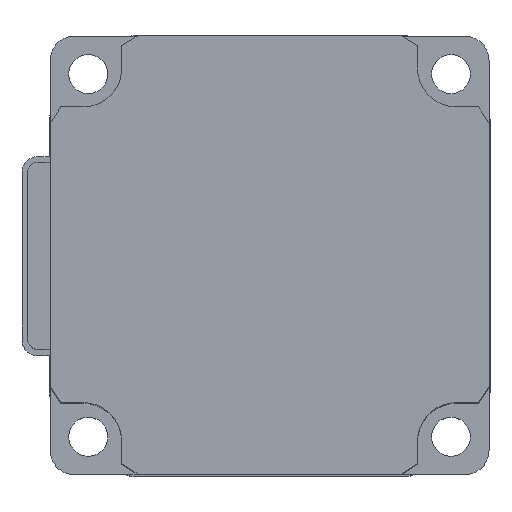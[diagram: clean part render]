
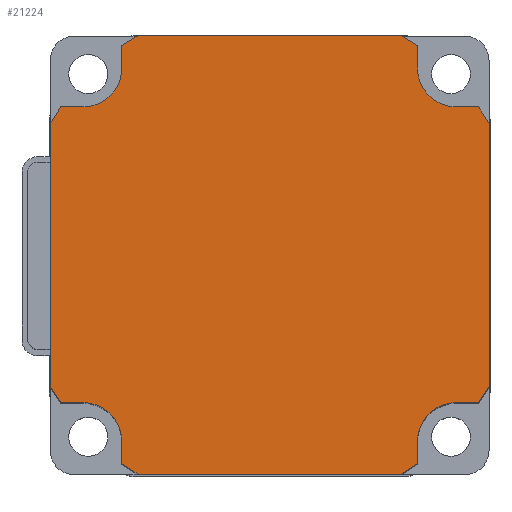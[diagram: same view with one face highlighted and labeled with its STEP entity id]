
A CAD part, top view. The second image highlights one B-rep face of the part: STEP entity #21224.
In plain terms, the highlighted planar face has unit normal (0, 0, 1).
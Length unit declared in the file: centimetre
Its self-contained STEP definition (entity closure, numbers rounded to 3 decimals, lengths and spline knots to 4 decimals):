
#6477=VERTEX_POINT('',#48513);
#6478=VERTEX_POINT('',#48514);
#6481=VERTEX_POINT('',#48522);
#6483=VERTEX_POINT('',#48528);
#6484=VERTEX_POINT('',#48529);
#6487=VERTEX_POINT('',#48537);
#6489=VERTEX_POINT('',#48543);
#6491=VERTEX_POINT('',#48549);
#6493=VERTEX_POINT('',#48555);
#6495=VERTEX_POINT('',#48561);
#6496=VERTEX_POINT('',#48562);
#6499=VERTEX_POINT('',#48570);
#6501=VERTEX_POINT('',#48576);
#6503=VERTEX_POINT('',#48582);
#6505=VERTEX_POINT('',#48588);
#6507=VERTEX_POINT('',#48594);
#6508=VERTEX_POINT('',#48595);
#6511=VERTEX_POINT('',#48603);
#6513=VERTEX_POINT('',#48609);
#6515=VERTEX_POINT('',#48615);
#6517=VERTEX_POINT('',#48621);
#6519=VERTEX_POINT('',#48627);
#6520=VERTEX_POINT('',#48628);
#6523=VERTEX_POINT('',#48636);
#8660=EDGE_CURVE('',#6477,#6478,#24983,.T.);
#8664=EDGE_CURVE('',#6478,#6481,#24987,.T.);
#8667=EDGE_CURVE('',#6483,#6484,#24990,.T.);
#8671=EDGE_CURVE('',#6484,#6487,#24994,.T.);
#8674=EDGE_CURVE('',#6487,#6489,#27755,.T.);
#8677=EDGE_CURVE('',#6489,#6491,#24998,.T.);
#8680=EDGE_CURVE('',#6491,#6493,#25001,.T.);
#8683=EDGE_CURVE('',#6495,#6496,#25004,.T.);
#8687=EDGE_CURVE('',#6496,#6499,#25008,.T.);
#8690=EDGE_CURVE('',#6499,#6501,#27757,.T.);
#8693=EDGE_CURVE('',#6501,#6503,#25012,.T.);
#8696=EDGE_CURVE('',#6503,#6505,#25015,.T.);
#8699=EDGE_CURVE('',#6507,#6508,#25018,.T.);
#8703=EDGE_CURVE('',#6508,#6511,#25022,.T.);
#8706=EDGE_CURVE('',#6511,#6513,#27759,.T.);
#8709=EDGE_CURVE('',#6513,#6515,#25026,.T.);
#8712=EDGE_CURVE('',#6515,#6517,#25029,.T.);
#8715=EDGE_CURVE('',#6519,#6520,#25032,.T.);
#8719=EDGE_CURVE('',#6520,#6523,#25036,.T.);
#8722=EDGE_CURVE('',#6523,#6477,#27761,.T.);
#8724=EDGE_CURVE('',#6517,#6519,#25039,.T.);
#8725=EDGE_CURVE('',#6505,#6507,#25040,.T.);
#8726=EDGE_CURVE('',#6493,#6495,#25041,.T.);
#8727=EDGE_CURVE('',#6481,#6483,#25042,.T.);
#12012=ORIENTED_EDGE('',*,*,#8660,.F.);
#12013=ORIENTED_EDGE('',*,*,#8722,.F.);
#12014=ORIENTED_EDGE('',*,*,#8719,.F.);
#12015=ORIENTED_EDGE('',*,*,#8715,.F.);
#12016=ORIENTED_EDGE('',*,*,#8724,.F.);
#12017=ORIENTED_EDGE('',*,*,#8712,.F.);
#12018=ORIENTED_EDGE('',*,*,#8709,.F.);
#12019=ORIENTED_EDGE('',*,*,#8706,.F.);
#12020=ORIENTED_EDGE('',*,*,#8703,.F.);
#12021=ORIENTED_EDGE('',*,*,#8699,.F.);
#12022=ORIENTED_EDGE('',*,*,#8725,.F.);
#12023=ORIENTED_EDGE('',*,*,#8696,.F.);
#12024=ORIENTED_EDGE('',*,*,#8693,.F.);
#12025=ORIENTED_EDGE('',*,*,#8690,.F.);
#12026=ORIENTED_EDGE('',*,*,#8687,.F.);
#12027=ORIENTED_EDGE('',*,*,#8683,.F.);
#12028=ORIENTED_EDGE('',*,*,#8726,.F.);
#12029=ORIENTED_EDGE('',*,*,#8680,.F.);
#12030=ORIENTED_EDGE('',*,*,#8677,.F.);
#12031=ORIENTED_EDGE('',*,*,#8674,.F.);
#12032=ORIENTED_EDGE('',*,*,#8671,.F.);
#12033=ORIENTED_EDGE('',*,*,#8667,.F.);
#12034=ORIENTED_EDGE('',*,*,#8727,.F.);
#12035=ORIENTED_EDGE('',*,*,#8664,.F.);
#18541=EDGE_LOOP('',(#12012,#12013,#12014,#12015,#12016,#12017,#12018,#12019,
#12020,#12021,#12022,#12023,#12024,#12025,#12026,#12027,#12028,#12029,#12030,
#12031,#12032,#12033,#12034,#12035));
#19883=FACE_BOUND('',#18541,.T.);
#21224=ADVANCED_FACE('',(#19883),#47112,.T.);
#24983=LINE('',#48512,#44364);
#24987=LINE('',#48521,#44368);
#24990=LINE('',#48527,#44371);
#24994=LINE('',#48536,#44375);
#24998=LINE('',#48548,#44379);
#25001=LINE('',#48554,#44382);
#25004=LINE('',#48560,#44385);
#25008=LINE('',#48569,#44389);
#25012=LINE('',#48581,#44393);
#25015=LINE('',#48587,#44396);
#25018=LINE('',#48593,#44399);
#25022=LINE('',#48602,#44403);
#25026=LINE('',#48614,#44407);
#25029=LINE('',#48620,#44410);
#25032=LINE('',#48626,#44413);
#25036=LINE('',#48635,#44417);
#25039=LINE('',#48644,#44420);
#25040=LINE('',#48645,#44421);
#25041=LINE('',#48646,#44422);
#25042=LINE('',#48647,#44423);
#27755=CIRCLE('',#43337,0.508);
#27757=CIRCLE('',#43344,0.508);
#27759=CIRCLE('',#43351,0.508);
#27761=CIRCLE('',#43358,0.508);
#43337=AXIS2_PLACEMENT_3D('',#48542,#66353,#66354);
#43344=AXIS2_PLACEMENT_3D('',#48575,#66377,#66378);
#43351=AXIS2_PLACEMENT_3D('',#48608,#66401,#66402);
#43358=AXIS2_PLACEMENT_3D('',#48641,#66425,#66426);
#43360=AXIS2_PLACEMENT_3D('',#48643,#66429,$);
#44364=VECTOR('',#66334,1.);
#44368=VECTOR('',#66339,1.);
#44371=VECTOR('',#66343,1.);
#44375=VECTOR('',#66348,1.);
#44379=VECTOR('',#66359,1.);
#44382=VECTOR('',#66363,1.);
#44385=VECTOR('',#66367,1.);
#44389=VECTOR('',#66372,1.);
#44393=VECTOR('',#66383,1.);
#44396=VECTOR('',#66387,1.);
#44399=VECTOR('',#66391,1.);
#44403=VECTOR('',#66396,1.);
#44407=VECTOR('',#66407,1.);
#44410=VECTOR('',#66411,1.);
#44413=VECTOR('',#66415,1.);
#44417=VECTOR('',#66420,1.);
#44420=VECTOR('',#66430,1.);
#44421=VECTOR('',#66431,1.);
#44422=VECTOR('',#66432,1.);
#44423=VECTOR('',#66433,1.);
#47112=PLANE('',#43360);
#48512=CARTESIAN_POINT('',(-1.9253,2.4333,5.5118));
#48513=CARTESIAN_POINT('',(-1.9253,2.4333,5.5118));
#48514=CARTESIAN_POINT('',(-1.9253,2.7203,5.5118));
#48521=CARTESIAN_POINT('',(-1.9253,2.7203,5.5118));
#48522=CARTESIAN_POINT('',(-1.7145,2.8575,5.5118));
#48527=CARTESIAN_POINT('',(1.7145,2.8575,5.5118));
#48528=CARTESIAN_POINT('',(1.7145,2.8575,5.5118));
#48529=CARTESIAN_POINT('',(1.9253,2.7203,5.5118));
#48536=CARTESIAN_POINT('',(1.9253,2.7203,5.5118));
#48537=CARTESIAN_POINT('',(1.9253,2.4333,5.5118));
#48542=CARTESIAN_POINT('',(2.4333,2.4333,5.5118));
#48543=CARTESIAN_POINT('',(2.4333,1.9253,5.5118));
#48548=CARTESIAN_POINT('',(2.4333,1.9253,5.5118));
#48549=CARTESIAN_POINT('',(2.7203,1.9253,5.5118));
#48554=CARTESIAN_POINT('',(2.7203,1.9253,5.5118));
#48555=CARTESIAN_POINT('',(2.8575,1.7145,5.5118));
#48560=CARTESIAN_POINT('',(2.8575,-1.7145,5.5118));
#48561=CARTESIAN_POINT('',(2.8575,-1.7145,5.5118));
#48562=CARTESIAN_POINT('',(2.7203,-1.9253,5.5118));
#48569=CARTESIAN_POINT('',(2.7203,-1.9253,5.5118));
#48570=CARTESIAN_POINT('',(2.4333,-1.9253,5.5118));
#48575=CARTESIAN_POINT('',(2.4333,-2.4333,5.5118));
#48576=CARTESIAN_POINT('',(1.9253,-2.4333,5.5118));
#48581=CARTESIAN_POINT('',(1.9253,-2.4333,5.5118));
#48582=CARTESIAN_POINT('',(1.9253,-2.7203,5.5118));
#48587=CARTESIAN_POINT('',(1.9253,-2.7203,5.5118));
#48588=CARTESIAN_POINT('',(1.7145,-2.8575,5.5118));
#48593=CARTESIAN_POINT('',(-1.7145,-2.8575,5.5118));
#48594=CARTESIAN_POINT('',(-1.7145,-2.8575,5.5118));
#48595=CARTESIAN_POINT('',(-1.9253,-2.7203,5.5118));
#48602=CARTESIAN_POINT('',(-1.9253,-2.7203,5.5118));
#48603=CARTESIAN_POINT('',(-1.9253,-2.4333,5.5118));
#48608=CARTESIAN_POINT('',(-2.4333,-2.4333,5.5118));
#48609=CARTESIAN_POINT('',(-2.4333,-1.9253,5.5118));
#48614=CARTESIAN_POINT('',(-2.4333,-1.9253,5.5118));
#48615=CARTESIAN_POINT('',(-2.7203,-1.9253,5.5118));
#48620=CARTESIAN_POINT('',(-2.7203,-1.9253,5.5118));
#48621=CARTESIAN_POINT('',(-2.8575,-1.7145,5.5118));
#48626=CARTESIAN_POINT('',(-2.8575,1.7145,5.5118));
#48627=CARTESIAN_POINT('',(-2.8575,1.7145,5.5118));
#48628=CARTESIAN_POINT('',(-2.7203,1.9253,5.5118));
#48635=CARTESIAN_POINT('',(-2.7203,1.9253,5.5118));
#48636=CARTESIAN_POINT('',(-2.4333,1.9253,5.5118));
#48641=CARTESIAN_POINT('',(-2.4333,2.4333,5.5118));
#48643=CARTESIAN_POINT('',(0.,0.,
5.5118));
#48644=CARTESIAN_POINT('',(-2.8575,-1.7145,5.5118));
#48645=CARTESIAN_POINT('',(1.7145,-2.8575,5.5118));
#48646=CARTESIAN_POINT('',(2.8575,1.7145,5.5118));
#48647=CARTESIAN_POINT('',(-1.7145,2.8575,5.5118));
#66334=DIRECTION('',(0.,1.,0.));
#66339=DIRECTION('',(0.838,0.545,0.));
#66343=DIRECTION('',(0.838,-0.545,0.));
#66348=DIRECTION('',(0.,-1.,0.));
#66353=DIRECTION('',(0.,0.,1.));
#66354=DIRECTION('',(0.508,0.,0.));
#66359=DIRECTION('',(1.,0.,0.));
#66363=DIRECTION('',(0.545,-0.838,0.));
#66367=DIRECTION('',(-0.545,-0.838,0.));
#66372=DIRECTION('',(-1.,0.,0.));
#66377=DIRECTION('',(0.,0.,1.));
#66378=DIRECTION('',(0.508,0.,0.));
#66383=DIRECTION('',(0.,-1.,0.));
#66387=DIRECTION('',(-0.838,-0.545,0.));
#66391=DIRECTION('',(-0.838,0.545,0.));
#66396=DIRECTION('',(0.,1.,0.));
#66401=DIRECTION('',(0.,0.,1.));
#66402=DIRECTION('',(0.508,0.,0.));
#66407=DIRECTION('',(-1.,0.,0.));
#66411=DIRECTION('',(-0.545,0.838,0.));
#66415=DIRECTION('',(0.545,0.838,0.));
#66420=DIRECTION('',(1.,0.,0.));
#66425=DIRECTION('',(0.,0.,1.));
#66426=DIRECTION('',(0.508,0.,0.));
#66429=DIRECTION('',(0.,0.,1.));
#66430=DIRECTION('',(0.,1.,0.));
#66431=DIRECTION('',(-1.,0.,0.));
#66432=DIRECTION('',(0.,-1.,0.));
#66433=DIRECTION('',(1.,0.,0.));
